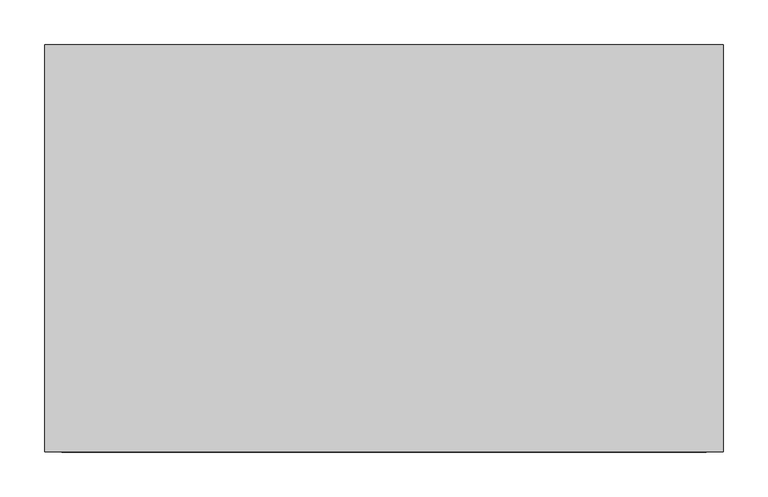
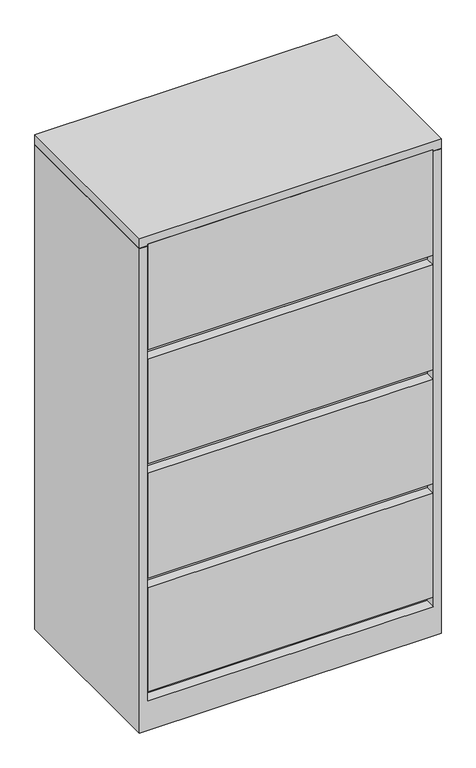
"""IFC4 building model written with IfcOpenShell, lengths in millimetres: furniture geometry, Steelcase - 900 Series - Storage - Lateral File With Roll Out Shelf - Flush Steel : 52H x 30W."""

from ifc_helpers import new_model, si_unit, frame, origin, place, context, project, spatial, polyline, outline, extrude, faceted_brep, source, transform, mapped, element, save


def furniture_92b87e06(model_context):
    return source(origin(), model_context, "Body", "SolidModel", [
        faceted_brep([(742.6960184, -25.2721219, 1293.876), (742.6960184, -457.2, 1293.876), (762.0, -457.2, 1293.876), (762.0, 0.0, 1293.876), (0.0, 0.0, 1293.876), (0.0, -457.2, 1293.876), (19.3039998, -457.2, 1293.876), (19.3039998, -25.2721219, 1293.876), (0.0, -457.2, 0.0), (0.0, 0.0, 0.0), (762.0, 0.0, 0.0), (762.0, -457.2, 0.0), (742.6960184, -25.2721219, 406.7048), (742.6960184, -431.800255, 406.7048), (742.6960184, -431.800255, 381.254), (742.6960184, -25.2721219, 381.254), (742.6960184, -25.2721219, 103.3780013), (742.6960184, -430.275847, 103.3780013), (742.6960184, -430.275847, 77.9779983), (742.6960184, -457.2, 77.9779983), (19.3039998, -457.2, 77.9779983), (19.3039998, -430.275847, 77.9779983), (19.3039998, -430.275847, 103.3780013), (19.3039998, -25.2721219, 103.3780013), (19.3039998, -25.2721219, 381.254), (19.3039998, -431.800255, 381.254), (19.3039998, -431.800255, 406.7048), (19.3039998, -25.2721219, 406.7048)], [[[0, 1, 2, 3, 4, 5, 6, 7]], [[8, 9, 10, 11]], [[1, 0, 12, 13, 14, 15, 16, 17, 18, 19]], [[2, 1, 19, 20, 6, 5, 8, 11]], [[3, 2, 11, 10]], [[4, 3, 10, 9]], [[5, 4, 9, 8]], [[7, 6, 20, 21, 22, 23, 24, 25, 26, 27]], [[0, 7, 27, 12]], [[16, 15, 24, 23]], [[18, 21, 20, 19]], [[22, 17, 16, 23]], [[21, 18, 17, 22]], [[26, 13, 12, 27]], [[13, 26, 25, 14]], [[14, 25, 24, 15]]]),
        extrude(outline(polyline([(742.6960184, -25.2721219), (742.6960184, -431.800255), (19.3039998, -431.800255), (19.3039998, -25.2721219), (742.6960184, -25.2721219)])), frame((0.0, 0.0, 686.1048), z_axis=(0.0, 0.0, 1.0), x_axis=(1.0, 0.0, 0.0)), (0.0, 0.0, 1.0), 25.4),
        extrude(outline(polyline([(741.1722015, -457.2), (20.8289612, -457.2), (20.8289612, -431.800255), (741.1722015, -431.800255), (741.1722015, -457.2)])), frame((0.0, 0.0, 1016.3048), z_axis=(0.0, 0.0, 1.0), x_axis=(1.0, 0.0, 0.0)), (0.0, 0.0, 1.0), 282.2702),
        extrude(outline(polyline([(741.1722015, -457.2), (20.8289612, -457.2), (20.8289612, -431.800255), (741.1722015, -431.800255), (741.1722015, -457.2)])), frame((0.0, 0.0, 711.5048), z_axis=(0.0, 0.0, 1.0), x_axis=(1.0, 0.0, 0.0)), (0.0, 0.0, 1.0), 279.4),
        extrude(outline(polyline([(742.6960184, -25.2721219), (742.6960184, -431.800255), (19.3039998, -431.800255), (19.3039998, -25.2721219), (742.6960184, -25.2721219)])), frame((0.0, 0.0, 990.9048), z_axis=(0.0, 0.0, 1.0), x_axis=(1.0, 0.0, 0.0)), (0.0, 0.0, 1.0), 25.4),
        faceted_brep([(762.0, 0.0, 1320.8), (0.0, 0.0, 1320.8), (0.0, -457.2, 1320.8), (762.0, -457.2, 1320.8), (762.0, 0.0, 1295.3999516), (762.0, -457.2, 1295.3999516), (0.0, -457.2, 1295.3999516), (0.0, 0.0, 1295.3999516), (742.6960184, -25.2721219, 1295.3999516), (20.8289612, -25.2721219, 1295.3999516), (20.8289612, -415.9241219, 1295.3999516), (742.6960184, -415.9241219, 1295.3999516), (742.6960184, -25.2721219, 1293.876), (742.6960184, -415.9241219, 1293.876), (20.8289612, -415.9241219, 1293.876), (20.8289612, -25.2721219, 1293.876)], [[[0, 1, 2, 3]], [[4, 5, 6, 7], [8, 9, 10, 11]], [[1, 0, 4, 7]], [[2, 1, 7, 6]], [[3, 2, 6, 5]], [[0, 3, 5, 4]], [[12, 13, 14, 15]], [[12, 15, 9, 8]], [[15, 14, 10, 9]], [[14, 13, 11, 10]], [[13, 12, 8, 11]]]),
        extrude(outline(polyline([(741.1722015, -457.2), (20.8289612, -457.2), (20.8289612, -431.800255), (741.1722015, -431.800255), (741.1722015, -457.2)])), frame((0.0, 0.0, 103.3780013), z_axis=(0.0, 0.0, 1.0), x_axis=(1.0, 0.0, 0.0)), (0.0, 0.0, 1.0), 277.8759987),
        extrude(outline(polyline([(741.1722015, -457.2), (20.8289612, -457.2), (20.8289612, -431.800255), (741.1722015, -431.800255), (741.1722015, -457.2)])), frame((0.0, 0.0, 406.7048), z_axis=(0.0, 0.0, 1.0), x_axis=(1.0, 0.0, 0.0)), (0.0, 0.0, 1.0), 279.4),
    ])


if __name__ == "__main__":
    model = new_model("IFC4")
    model_context = context("Model", 3, world=origin())
    ifc_project = project(units=[si_unit("LENGTHUNIT", "METRE", prefix="MILLI")], contexts=[model_context])
    site = spatial("IfcSite", under=ifc_project)
    building = spatial("IfcBuilding", under=site)
    placement = place(None, origin())
    furniture_shape = furniture_92b87e06(model_context)
    element("IfcFurniture", 1, ObjectType="Steelcase - 900 Series - Storage - Lateral File With Roll Out Shelf - Flush Steel : 52H x 30W", at=placement, inside=building, context=model_context, shape_type="MappedRepresentation", body=[
        mapped(furniture_shape, transform((0.0, 0.0, 0.0), x_axis=(1.0, 0.0, 0.0), y_axis=(0.0, 1.0, 0.0), z_axis=(0.0, 0.0, 1.0))),
    ])
    save(model, "model.ifc")
